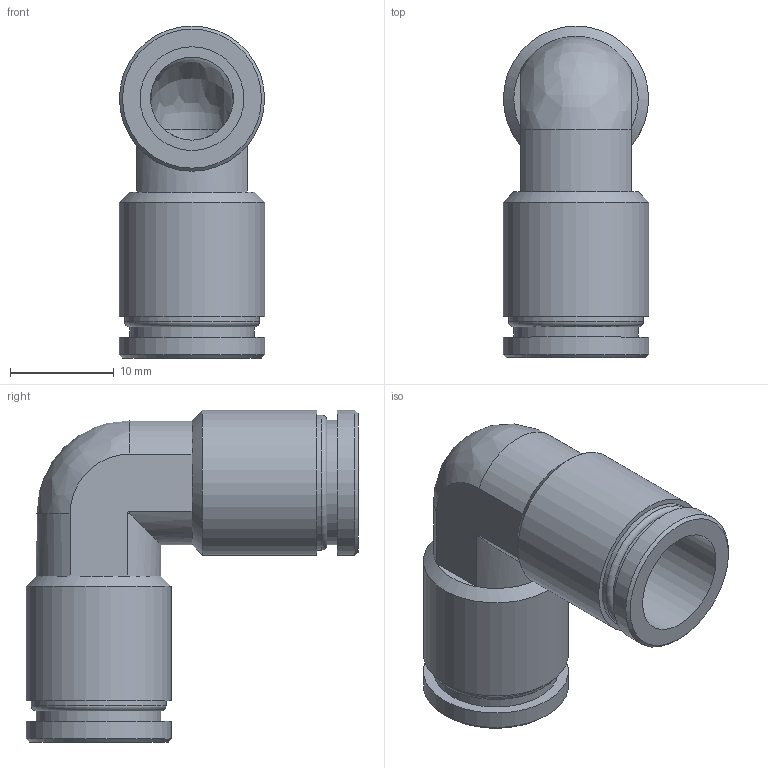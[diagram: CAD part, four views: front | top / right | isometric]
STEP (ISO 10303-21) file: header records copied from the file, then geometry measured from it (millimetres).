
FILE_DESCRIPTION(/* description */ (''),/* implementation_level */ '2;1');
FILE_NAME(/* name */ 'LXH20 1010 00.stp',/* time_stamp */ '2026-04-20T20:07:18+02:00',/* author */ ('freju'),/* organization */ (''),/* preprocessor_version */ 'ST-DEVELOPER v20.1',/* originating_system */ 'Autodesk Inventor 2026',/* authorisation */ '');
FILE_SCHEMA (('AUTOMOTIVE_DESIGN { 1 0 10303 214 3 1 1 }'));
Length unit declared in the file: millimetre
Products named in the file (2): LXH20 1010 00; Raccordo 1010
Assembly tree (1 placements, depth 2):
  LXH20 1010 00
    Raccordo 1010
Bounding box: 14 x 32 x 32 mm (x, y, z)
Volume: 3077.6 mm3; surface area: 3824.8 mm2
Topology: 1 solids, 1 shells, 40 faces, 88 edges, 52 vertices
Faces by surface type: cylinder 16, plane 14, cone 4, bspline 4, torus 2
Full cylindrical faces by diameter (mm): 8 x2, 10 x2, 12 x2, 13 x2, 14 x4
Entity records: 1201 total; most frequent: CARTESIAN_POINT 235, DIRECTION 218, ORIENTED_EDGE 168, AXIS2_PLACEMENT_3D 95, EDGE_CURVE 84, CIRCLE 54, VERTEX_POINT 52, EDGE_LOOP 48
